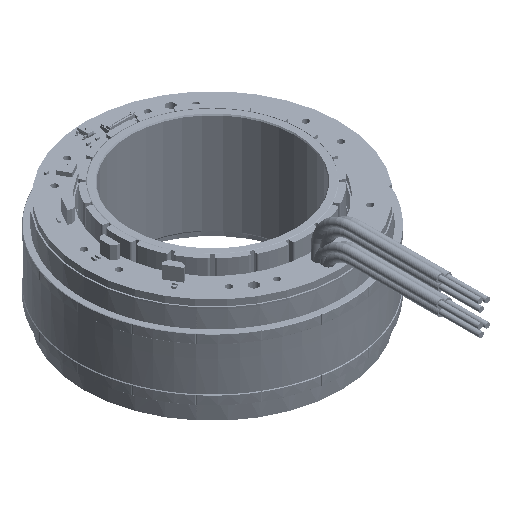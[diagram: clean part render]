
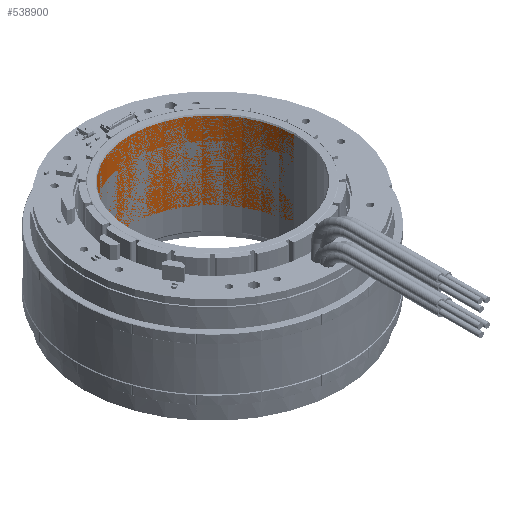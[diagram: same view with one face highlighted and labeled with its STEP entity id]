
A CAD part, isometric view. The second image highlights one B-rep face of the part: STEP entity #538900.
In plain terms, the highlighted cylindrical face has radius 21 mm (diameter 42 mm), a partial arc.
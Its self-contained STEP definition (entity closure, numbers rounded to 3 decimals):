
#874 = DIRECTION ( 'NONE',  ( 0., 0., -1. ) ) ;
#8394 = VECTOR ( 'NONE', #454674, 1000. ) ;
#37716 = ORIENTED_EDGE ( 'NONE', *, *, #443226, .T. ) ;
#93178 = AXIS2_PLACEMENT_3D ( 'NONE', #788458, #874, #534420 ) ;
#116759 = CARTESIAN_POINT ( 'NONE',  ( -21., 0., -2.65 ) ) ;
#136219 = DIRECTION ( 'NONE',  ( 1., 0., 0. ) ) ;
#190283 = CIRCLE ( 'NONE', #479708, 21. ) ;
#235571 = AXIS2_PLACEMENT_3D ( 'NONE', #297328, #435044, #830899 ) ;
#252372 = LINE ( 'NONE', #781745, #8394 ) ;
#265355 = DIRECTION ( 'NONE',  ( 0., 0., 1. ) ) ;
#276032 = FACE_OUTER_BOUND ( 'NONE', #435339, .T. ) ;
#282156 = LINE ( 'NONE', #673943, #424695 ) ;
#297328 = CARTESIAN_POINT ( 'NONE',  ( 0., 0., -2.65 ) ) ;
#299616 = CARTESIAN_POINT ( 'NONE',  ( -21., 0., 17.25 ) ) ;
#306714 = CARTESIAN_POINT ( 'NONE',  ( 21., 0., 17.25 ) ) ;
#391193 = ORIENTED_EDGE ( 'NONE', *, *, #473946, .F. ) ;
#424695 = VECTOR ( 'NONE', #661266, 1000. ) ;
#435044 = DIRECTION ( 'NONE',  ( 0., 0., -1. ) ) ;
#435339 = EDGE_LOOP ( 'NONE', ( #391193, #597318, #37716, #503052 ) ) ;
#443226 = EDGE_CURVE ( 'NONE', #481653, #523550, #252372, .T. ) ;
#450684 = CARTESIAN_POINT ( 'NONE',  ( 0., 0., 17.25 ) ) ;
#454674 = DIRECTION ( 'NONE',  ( 0., 0., -1. ) ) ;
#473946 = EDGE_CURVE ( 'NONE', #538814, #702832, #282156, .T. ) ;
#479708 = AXIS2_PLACEMENT_3D ( 'NONE', #450684, #265355, #136219 ) ;
#481653 = VERTEX_POINT ( 'NONE', #299616 ) ;
#503052 = ORIENTED_EDGE ( 'NONE', *, *, #822708, .T. ) ;
#523550 = VERTEX_POINT ( 'NONE', #116759 ) ;
#534420 = DIRECTION ( 'NONE',  ( -1., 0., 0. ) ) ;
#538655 = CYLINDRICAL_SURFACE ( 'NONE', #93178, 21. ) ;
#538814 = VERTEX_POINT ( 'NONE', #306714 ) ;
#538900 = ADVANCED_FACE ( 'NONE', ( #276032 ), #538655, .F. ) ;
#597318 = ORIENTED_EDGE ( 'NONE', *, *, #783342, .T. ) ;
#608141 = CARTESIAN_POINT ( 'NONE',  ( 21., 0., -2.65 ) ) ;
#661266 = DIRECTION ( 'NONE',  ( 0., 0., -1. ) ) ;
#673943 = CARTESIAN_POINT ( 'NONE',  ( 21., 0., 17.55 ) ) ;
#702832 = VERTEX_POINT ( 'NONE', #608141 ) ;
#771363 = CIRCLE ( 'NONE', #235571, 21. ) ;
#781745 = CARTESIAN_POINT ( 'NONE',  ( -21., 0., 17.55 ) ) ;
#783342 = EDGE_CURVE ( 'NONE', #538814, #481653, #190283, .T. ) ;
#788458 = CARTESIAN_POINT ( 'NONE',  ( 0., 0., 17.55 ) ) ;
#822708 = EDGE_CURVE ( 'NONE', #523550, #702832, #771363, .T. ) ;
#830899 = DIRECTION ( 'NONE',  ( 1., 0., 0. ) ) ;
